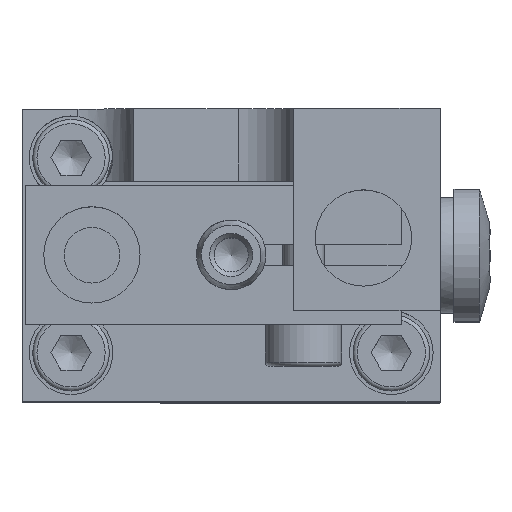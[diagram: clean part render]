
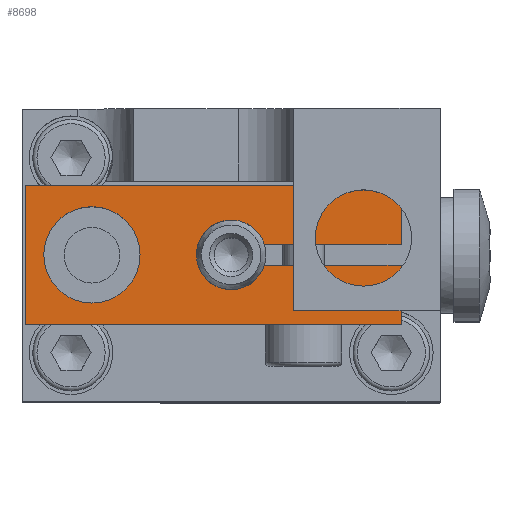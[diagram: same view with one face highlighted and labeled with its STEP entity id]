
A CAD part, top view. The second image highlights one B-rep face of the part: STEP entity #8698.
In plain terms, the highlighted planar face has unit normal (0, 0, 1).
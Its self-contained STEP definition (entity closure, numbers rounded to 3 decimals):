
#8411=CARTESIAN_POINT('',(-2.8,15.5,29.039));
#8412=VERTEX_POINT('',#8411);
#8427=CARTESIAN_POINT('',(-29.8,15.5,29.039));
#8428=VERTEX_POINT('',#8427);
#8435=CARTESIAN_POINT('',(-2.8,15.5,29.039));
#8436=DIRECTION('',(-1.0,0.0,0.0));
#8437=VECTOR('',#8436,27.);
#8438=LINE('',#8435,#8437);
#8439=EDGE_CURVE('',#8412,#8428,#8438,.T.);
#8470=CARTESIAN_POINT('',(-2.8,5.5,29.039));
#8471=VERTEX_POINT('',#8470);
#8478=CARTESIAN_POINT('',(-29.8,5.5,29.039));
#8479=VERTEX_POINT('',#8478);
#8480=CARTESIAN_POINT('',(-29.8,5.5,29.039));
#8481=DIRECTION('',(1.0,0.0,0.0));
#8482=VECTOR('',#8481,27.0);
#8483=LINE('',#8480,#8482);
#8484=EDGE_CURVE('',#8479,#8471,#8483,.T.);
#8562=CARTESIAN_POINT('',(-29.8,5.5,29.039));
#8563=DIRECTION('',(0.0,1.0,0.0));
#8564=VECTOR('',#8563,10.0);
#8565=LINE('',#8562,#8564);
#8566=EDGE_CURVE('',#8479,#8428,#8565,.T.);
#8576=CARTESIAN_POINT('',(-2.8,11.25,29.039));
#8577=VERTEX_POINT('',#8576);
#8586=CARTESIAN_POINT('',(-2.8,11.25,29.039));
#8587=DIRECTION('',(0.0,1.0,0.0));
#8588=VECTOR('',#8587,4.25);
#8589=LINE('',#8586,#8588);
#8590=EDGE_CURVE('',#8577,#8412,#8589,.T.);
#8624=CARTESIAN_POINT('',(-21.541,10.5,29.039));
#8625=VERTEX_POINT('',#8624);
#8626=CARTESIAN_POINT('',(-25.,10.5,29.039));
#8627=DIRECTION('',(0.0,0.0,-1.0));
#8628=DIRECTION('',(1.0,0.0,0.0));
#8629=AXIS2_PLACEMENT_3D('',#8626,#8627,#8628);
#8630=CIRCLE('',#8629,3.459);
#8631=EDGE_CURVE('',#8625,#8625,#8630,.T.);
#8641=CARTESIAN_POINT('',(-2.8,9.75,29.039));
#8642=VERTEX_POINT('',#8641);
#8649=CARTESIAN_POINT('',(-2.8,5.5,29.039));
#8650=DIRECTION('',(0.0,1.0,0.0));
#8651=VECTOR('',#8650,4.25);
#8652=LINE('',#8649,#8651);
#8653=EDGE_CURVE('',#8471,#8642,#8652,.T.);
#8660=CARTESIAN_POINT('',(-2.8,5.5,29.039));
#8661=DIRECTION('',(0.0,0.0,1.0));
#8662=DIRECTION('',(1.0,0.0,0.0));
#8663=AXIS2_PLACEMENT_3D('',#8660,#8661,#8662);
#8664=PLANE('',#8663);
#8665=CARTESIAN_POINT('',(-12.615,11.25,29.039));
#8666=VERTEX_POINT('',#8665);
#8667=CARTESIAN_POINT('',(-12.615,11.25,29.039));
#8668=DIRECTION('',(1.0,0.0,0.0));
#8669=VECTOR('',#8668,9.815);
#8670=LINE('',#8667,#8669);
#8671=EDGE_CURVE('',#8666,#8577,#8670,.T.);
#8672=ORIENTED_EDGE('',*,*,#8671,.T.);
#8673=ORIENTED_EDGE('',*,*,#8590,.T.);
#8674=ORIENTED_EDGE('',*,*,#8439,.T.);
#8675=ORIENTED_EDGE('',*,*,#8566,.F.);
#8676=ORIENTED_EDGE('',*,*,#8484,.T.);
#8677=ORIENTED_EDGE('',*,*,#8653,.T.);
#8678=CARTESIAN_POINT('',(-12.615,9.75,29.039));
#8679=VERTEX_POINT('',#8678);
#8680=CARTESIAN_POINT('',(-2.8,9.75,29.039));
#8681=DIRECTION('',(-1.0,0.0,0.0));
#8682=VECTOR('',#8681,9.815);
#8683=LINE('',#8680,#8682);
#8684=EDGE_CURVE('',#8642,#8679,#8683,.T.);
#8685=ORIENTED_EDGE('',*,*,#8684,.T.);
#8686=CARTESIAN_POINT('',(-15.,10.5,29.039));
#8687=DIRECTION('',(0.0,0.0,-1.0));
#8688=DIRECTION('',(1.0,0.0,0.0));
#8689=AXIS2_PLACEMENT_3D('',#8686,#8687,#8688);
#8690=CIRCLE('',#8689,2.5);
#8691=EDGE_CURVE('',#8679,#8666,#8690,.T.);
#8692=ORIENTED_EDGE('',*,*,#8691,.T.);
#8693=EDGE_LOOP('',(#8672,#8673,#8674,#8675,#8676,#8677,#8685,#8692));
#8694=FACE_OUTER_BOUND('',#8693,.T.);
#8695=ORIENTED_EDGE('',*,*,#8631,.T.);
#8696=EDGE_LOOP('',(#8695));
#8697=FACE_BOUND('',#8696,.T.);
#8698=ADVANCED_FACE('',(#8694,#8697),#8664,.T.);
